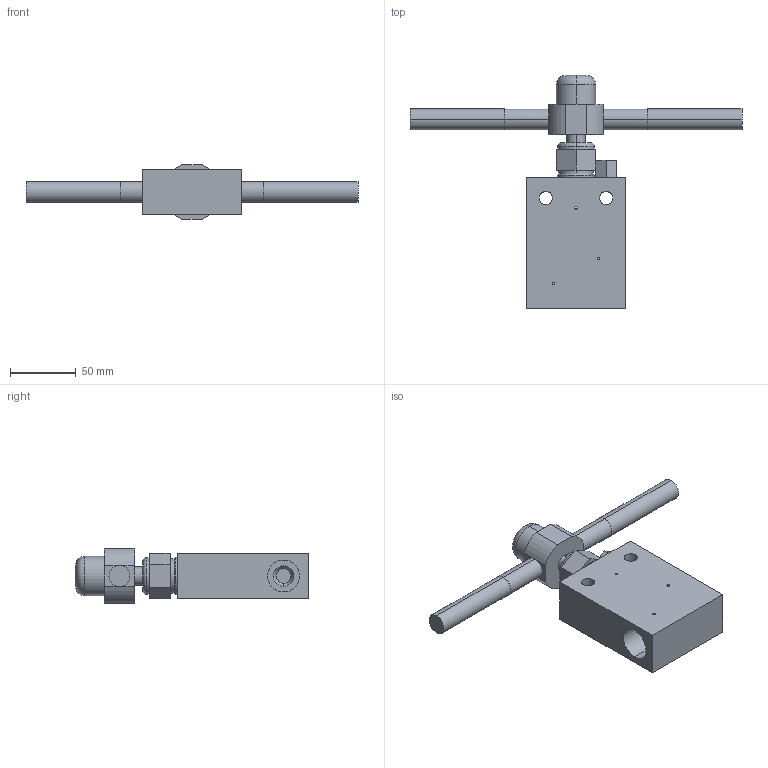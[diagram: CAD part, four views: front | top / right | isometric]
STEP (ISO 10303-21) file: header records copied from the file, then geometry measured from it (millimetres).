
FILE_DESCRIPTION (( 'STEP AP203' ), '1' );
FILE_NAME ('HRS-NV20VS12-S.STEP', '2024-01-15T05:21:27', ( '' ), ( '' ), 'SwSTEP 2.0', 'SolidWorks 2023', '' );
FILE_SCHEMA (( 'CONFIG_CONTROL_DESIGN' ));
Length unit declared in the file: millimetre
Products named in the file (1): HRS-NV20VS12-S
Bounding box: 253 x 177.63 x 41.2 mm (x, y, z)
Volume: 348640.2 mm3; surface area: 56045.8 mm2
Topology: 1 solids, 1 shells, 103 faces, 248 edges, 156 vertices
Faces by surface type: cylinder 48, plane 45, cone 6, torus 4
Entity records: 3341 total; most frequent: CARTESIAN_POINT 756, DIRECTION 550, ORIENTED_EDGE 496, EDGE_CURVE 248, AXIS2_PLACEMENT_3D 210, VERTEX_POINT 156, VECTOR 130, LINE 130
